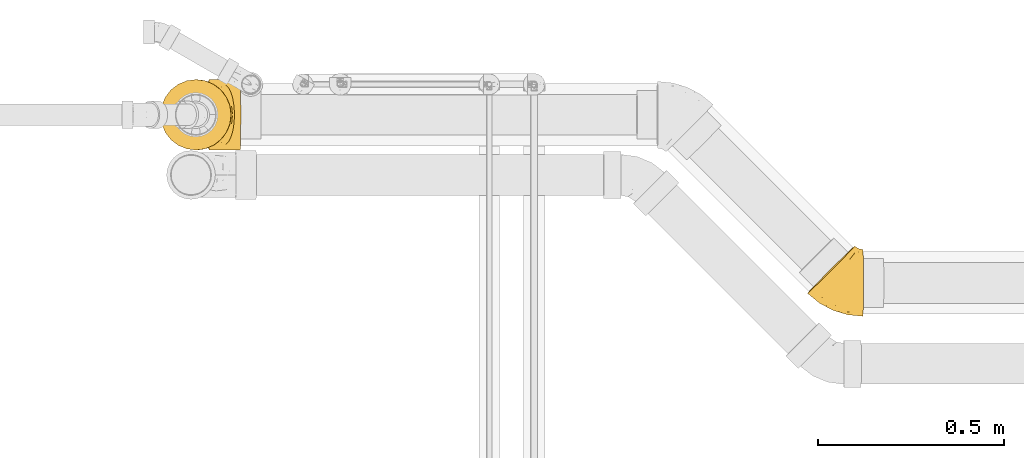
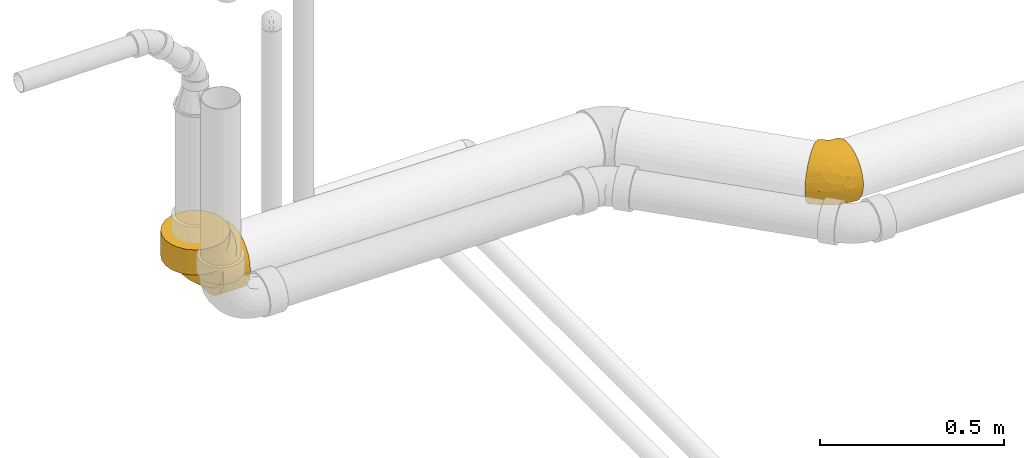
# One storey, part 11 of 78: 2 coverings.
"""IFC2X3 building model written with IfcOpenShell, lengths in millimetres."""

from ifc_helpers import new_model, entity, si_unit, converted_unit, derived_unit, direction, frame, origin_with_axes, place, context, subcontext, project, spatial, open_shell, surface_model, source, transform, mapped, element, save


model = new_model("IFC2X3")

# Units and contexts
model_context = context("Model", 3, precision=0.01, world=frame((0.0, 4.29681676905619e-09, 0.0)), true_north=direction((4.01073788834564e-13, 1.0)))
plan_context = context("Plan", 3, precision=0.01, world=frame((0.0, 4.29681676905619e-09, 0.0)), true_north=direction((4.01073788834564e-13, 1.0)))
body_context = subcontext(model_context, "Body", "Model", "MODEL_VIEW")
ifc_project = project(units=[converted_unit("PLANEANGLEUNIT", "DEGREE", entity("IfcPositiveLengthMeasure", 0.0174532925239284), si_unit("PLANEANGLEUNIT", "RADIAN"), dimensions=[0, 0, 0, 0, 0, 0, 0]), si_unit("AREAUNIT", "SQUARE_METRE"), si_unit("LENGTHUNIT", "METRE", prefix="MILLI"), si_unit("MASSUNIT", "GRAM", prefix="KILO"), si_unit("POWERUNIT", "WATT"), si_unit("PRESSUREUNIT", "PASCAL"), si_unit("FORCEUNIT", "NEWTON", prefix="KILO"), si_unit("ELECTRICVOLTAGEUNIT", "VOLT"), si_unit("ELECTRICCURRENTUNIT", "AMPERE"), si_unit("THERMODYNAMICTEMPERATUREUNIT", "DEGREE_CELSIUS"), si_unit("TIMEUNIT", "SECOND"), si_unit("VOLUMEUNIT", "CUBIC_METRE"), derived_unit("LINEARVELOCITYUNIT", [(si_unit("LENGTHUNIT", "METRE"), 1), (si_unit("TIMEUNIT", "SECOND"), -1)]), derived_unit("VOLUMETRICFLOWRATEUNIT", [(si_unit("VOLUMEUNIT", "CUBIC_METRE"), 1), (si_unit("TIMEUNIT", "SECOND"), -1)]), derived_unit("THERMALTRANSMITTANCEUNIT", [(si_unit("POWERUNIT", "WATT"), 1), (si_unit("THERMODYNAMICTEMPERATUREUNIT", "KELVIN"), -1), (si_unit("AREAUNIT", "SQUARE_METRE"), -1)]), derived_unit("SOUNDPRESSUREUNIT", [(si_unit("PRESSUREUNIT", "PASCAL"), 1)])], contexts=[model_context, plan_context])

# Site, building, storey
site_placement = place(None, frame((0.0, -4.29681676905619e-09, 0.0), z_axis=(0.0, 0.0, 1.0), x_axis=(1.0, 0.0, 0.0)))
site = spatial("IfcSite", under=ifc_project, at=site_placement, Name="ENGM", CompositionType="ELEMENT")
building_placement = place(site_placement, frame((0.0, 4.29681676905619e-09, 0.0), z_axis=(0.0, 0.0, 1.0), x_axis=(1.0, 0.0, 0.0)))
building = spatial("IfcBuilding", under=site, at=building_placement, Name="TH", CompositionType="ELEMENT")
storey_placement = place(building_placement, frame((0.0, 0.0, 205200.0), z_axis=(0.0, 0.0, 1.0), x_axis=(1.0, 0.0, 0.0)))
storey = spatial("IfcBuildingStorey", under=building, at=storey_placement, Name="Nivå D + 1,2 m", CompositionType="ELEMENT", Elevation=205200.0)

# Coverings
shared_shape_1 = source(origin_with_axes(), body_context, "Body", "SurfaceModel", [
    surface_model("IfcShellBasedSurfaceModel", [(-35.00211, 13.72892, -88.19182), (-35.00211, 0.0, -94.5), (-35.00211, 15.46763, -93.22555), (-35.00211, -2.75055, -84.8186), (-35.00211, -24.4584, -91.27999), (-35.00211, 30.43621, -89.46444), (-35.00211, -18.56422, -79.08992), (-35.00211, -33.24183, -70.89155), (-35.00211, -47.25, -81.8394), (-35.00211, -46.26178, -60.26457), (-35.00211, -66.82159, -66.82159), (-35.00211, -57.09081, -47.41718), (-35.00211, -81.8394, -47.25), (-35.00211, -65.23583, -32.72357), (-35.00211, -70.29701, -16.70539), (-35.00211, -91.27999, -24.4584), (-35.00211, -94.5, 0.0), (-35.00211, -72.0136, 0.0), (-35.00211, -2.75055, 84.8186), (-35.00211, 13.72892, 88.19182), (-35.00211, 0.0, 94.5), (-35.00211, -33.24183, 70.89155), (-35.00211, -18.56422, 79.08992), (-35.00211, -24.4584, 91.27999), (-35.00211, 15.46826, 93.22544), (-35.00211, 30.43621, 89.46444), (-35.00211, -47.25, 81.8394), (-35.00211, -70.29701, 16.70539), (-35.00211, -65.23583, 32.72357), (-35.00211, -91.27999, 24.4584), (-35.00211, -81.8394, 47.25), (-35.00211, -46.26178, 60.26457), (-35.00211, -66.82159, 66.82159), (-35.00211, -57.09081, 47.41718), (-119.00211, 24.4584, 91.27999), (-119.00211, -24.4584, 91.27999), (-119.00211, 0.0, 94.5), (-119.00211, 66.82159, 66.82159), (-119.00211, 47.25, 81.8394), (-119.00211, 81.8394, 47.25), (-119.00211, 91.27999, 24.4584), (-119.00211, -66.82159, 66.82159), (-119.00211, -47.25, 81.8394), (-119.00211, -81.8394, -47.25), (-119.00211, -91.27999, 24.4584), (-119.00211, -81.8394, 47.25), (-119.00211, -94.5, 0.0), (-119.00211, 24.4584, -91.27999), (-119.00211, 91.27999, -24.4584), (-119.00211, 81.8394, -47.25), (-119.00211, 47.25, -81.8394), (-119.00211, 66.82159, -66.82159), (-119.00211, -47.25, -81.8394), (-119.00211, -66.82159, -66.82159), (-119.00211, -91.27999, -24.4584), (-119.00211, 0.0, -94.5), (-119.00211, -24.4584, -91.27999), (-119.00211, 94.5, 0.0), (-119.00211, 92.89, 12.2292), (-101.6908, 93.78978, 8.16161), (-119.00211, 86.5597, 35.8542), (-96.97376, 82.12073, 46.75934), (-101.40886, 93.07955, 16.32322), (-93.03185, 73.1113, 59.87477), (-119.00211, 74.3305, 57.03579), (-100.5731, 90.98307, 24.20393), (-87.61351, 62.36465, 70.9993), (-99.73734, 88.88659, 32.08463), (-38.87582, 30.3315, 89.5), (-35.00211, 26.40083, 90.47842), (-36.9382, 30.35816, 89.49096), (-80.06803, 50.73321, 79.72697), (-69.36238, 39.88692, 85.66962), (-55.08606, 32.58204, 88.70547), (-101.97273, 94.5, 0.0), (-35.00211, 22.36544, 91.49239), (-69.36238, 39.88692, -85.66962), (-55.08606, 32.58204, -88.70547), (-80.06803, 50.73321, -79.72697), (-101.40886, 93.07955, -16.32322), (-119.00211, 92.89, -12.2292), (-93.03185, 73.1113, -59.87477), (-119.00211, 74.3305, -57.03579), (-96.97376, 82.12073, -46.75934), (-119.00211, 86.5597, -35.8542), (-99.73734, 88.88659, -32.08463), (-35.00211, 22.36543, -91.49236), (-35.00211, 26.40082, -90.47841), (-38.87582, 30.3315, -89.5), (-36.9382, 30.35816, -89.49096), (-100.5731, 90.98307, -24.20393), (-101.6908, 93.78978, -8.16161), (-87.61351, 62.36465, -70.9993), (67.39504, 33.88483, -66.82159), (82.41077, 33.63482, -47.25), (57.6656, 34.04683, -47.41718), (46.83807, 34.22711, -60.26457), (47.82616, 34.21066, -81.8394), (65.8095, 33.91123, -32.72357), (70.86997, 33.82698, -16.70539), (95.06961, 33.42405, 0.0), (72.58633, 33.7984, 0.0), (91.85004, 33.47766, -24.4584), (-14.88278, 35.25476, -93.22555), (0.58271, 34.99726, -94.5), (-13.14431, 35.22582, -88.19182), (-29.84928, 35.50396, -89.46444), (3.33287, 34.95147, -84.8186), (25.03772, 34.59009, -91.27999), (33.81993, 34.44386, -70.89155), (19.14436, 34.68821, -79.08992), (91.85004, 33.47766, 24.4584), (70.86997, 33.82698, 16.70539), (65.8095, 33.91123, 32.72357), (82.41077, 33.63482, 47.25), (67.39504, 33.88483, 66.82159), (57.6656, 34.04683, 47.41718), (46.83807, 34.22711, 60.26457), (47.82616, 34.21066, 81.8394), (33.81993, 34.44386, 70.89155), (3.33287, 34.95147, 84.8186), (19.14436, 34.68821, 79.08992), (25.03772, 34.59009, 91.27999), (0.58271, 34.99726, 94.5), (-13.14431, 35.22582, 88.19182), (-14.88278, 35.25476, 93.22555), (-29.84928, 35.50396, 89.46444), (1.98112, 118.98562, 94.5), (26.43613, 118.57845, 91.27999), (49.22457, 118.19902, 81.8394), (-22.47389, 119.3928, 91.27999), (68.79345, 117.87319, 66.82159), (83.80917, 117.62318, 47.25), (93.24846, 117.46601, 24.4584), (-79.84694, 120.34807, 47.25), (-45.26234, 119.77223, 81.8394), (-64.83121, 120.09805, 66.82159), (-92.50579, 120.55884, 0.0), (-89.28622, 120.50523, 24.4584), (96.46802, 117.41241, 0.0), (93.24846, 117.46601, -24.4584), (83.80917, 117.62318, -47.25), (26.43613, 118.57845, -91.27999), (68.79345, 117.87319, -66.82159), (49.22457, 118.19902, -81.8394), (-45.26234, 119.77223, -81.8394), (-79.84694, 120.34807, -47.25), (-64.83121, 120.09805, -66.82159), (-89.28622, 120.50523, -24.4584), (1.98112, 118.98562, -94.5), (-22.47389, 119.3928, -91.27999), (-38.72667, 70.01679, 85.66962), (-31.66047, 55.62084, 88.70547), (-49.39323, 80.90153, 79.72697), (-91.37842, 102.94437, 16.32322), (-90.89601, 120.53203, 12.2292), (-71.5524, 94.23609, 59.87477), (-72.33908, 120.22306, 57.03579), (-80.49495, 98.32745, 46.75934), (-84.56659, 120.42664, 35.8542), (-87.21387, 101.20329, 32.08463), (-21.77963, 35.3696, 91.49236), (-25.81446, 35.43678, 90.47841), (-29.6801, 39.37538, 89.5), (-29.73901, 37.43847, 89.49096), (-89.29615, 102.07383, 24.20393), (-92.78929, 103.53181, 0.0), (-92.08385, 103.23809, 8.16161), (-60.89744, 88.6396, 70.9993), (-90.89601, 120.53203, -12.2292), (-92.08385, 103.23809, -8.16161), (-84.56659, 120.42664, -35.8542), (-80.49495, 98.32745, -46.75934), (-91.37842, 102.94437, -16.32322), (-71.5524, 94.23609, -59.87477), (-72.33908, 120.22306, -57.03579), (-89.29615, 102.07383, -24.20393), (-60.89744, 88.6396, -70.9993), (-87.21387, 101.20329, -32.08463), (-29.6801, 39.37538, -89.5), (-25.81446, 35.43678, -90.47841), (-29.73901, 37.43847, -89.49096), (-49.39323, 80.90153, -79.72697), (-38.72667, 70.01679, -85.66962), (-31.66047, 55.62084, -88.70547), (-21.77963, 35.3696, -91.49236), (23.57872, -23.97459, 35.07803), (-4.6034, -36.29323, 51.07607), (-8.69833, -48.3687, 37.81165), (-1.22828, -53.46941, 0.0), (-5.51614, 5.60875, 79.63564), (12.00434, -12.20588, 60.63243), (0.21981, -48.89917, 22.76545), (43.86794, 1.07568, 37.51409), (48.88873, -1.03386, 22.76545), (-6.34948, -13.1534, 71.23808), (36.36483, 3.99855, 51.07607), (27.18382, -27.64021, 18.90398), (28.59969, -29.07984, 0.0), (-34.15737, 34.73083, 89.5), (-36.83041, 32.23858, 89.5), (-31.62097, 37.362, 89.5), (53.48245, 0.33797, 0.0), (-52.95645, 53.84552, 85.39013), (-68.82074, 69.97614, 74.60877), (-83.39621, 84.79631, 55.49085), (-91.96504, 89.07133, 41.75735), (-96.91443, 98.5415, 0.0), (-94.07341, 95.65278, 26.62394), (-87.52797, 93.43513, -41.75735), (-68.82074, 69.97614, -74.60877), (-83.39621, 84.79631, -55.49085), (-94.07341, 95.65278, -26.62394), (-52.95645, 53.84552, -85.39013), (-34.15737, 34.73083, -89.5), (-5.51614, 5.60875, -79.63564), (13.25728, 6.12962, -71.23808), (48.88873, -1.03386, -22.76545), (-36.83041, 32.23858, -89.5), (0.21981, -48.89917, -22.76545), (-31.62097, 37.362, -89.5), (48.5068, 7.89188, -37.81165), (36.36483, 3.99855, -51.07607), (-1.80585, -43.84397, -37.51409), (-4.6034, -36.29323, -51.07607), (23.57872, -23.97459, -35.07803), (12.00434, -12.20588, -60.63243), (27.18382, -27.64021, -18.90398)], [open_shell([[[0, 1, 2]], [[3, 4, 1]], [[2, 5, 0]], [[0, 3, 1]], [[6, 7, 4]], [[3, 6, 4]], [[4, 7, 8]], [[8, 9, 10]], [[9, 8, 7]], [[10, 11, 12]], [[11, 10, 9]], [[13, 14, 15]], [[13, 15, 12]], [[16, 15, 14]], [[16, 14, 17]], [[13, 12, 11]], [[18, 19, 20]], [[21, 22, 23]], [[18, 23, 22]], [[20, 19, 24]], [[23, 18, 20]], [[24, 19, 25]], [[21, 23, 26]], [[27, 28, 29]], [[29, 16, 27]], [[28, 30, 29]], [[27, 16, 17]], [[31, 26, 32]], [[26, 31, 21]], [[30, 33, 32]], [[33, 30, 28]], [[32, 33, 31]], [[34, 35, 36]], [[37, 34, 38]], [[37, 39, 40]], [[34, 37, 35]], [[40, 35, 37]], [[35, 41, 42]], [[41, 35, 43]], [[41, 44, 45]], [[44, 41, 46]], [[41, 43, 46]], [[47, 35, 40]], [[40, 48, 47]], [[47, 48, 49]], [[50, 47, 49]], [[50, 49, 51]], [[35, 47, 43]], [[43, 52, 53]], [[54, 46, 43]], [[52, 55, 56]], [[52, 43, 47]], [[55, 52, 47]], [[40, 57, 48]], [[57, 58, 59]], [[60, 39, 61]], [[58, 40, 62]], [[63, 64, 37]], [[65, 62, 40]], [[58, 62, 59]], [[61, 39, 64]], [[66, 63, 37]], [[60, 61, 67]], [[37, 38, 66]], [[68, 69, 70]], [[71, 38, 72]], [[38, 71, 66]], [[73, 72, 34]], [[34, 72, 38]], [[24, 34, 36]], [[69, 68, 73]], [[67, 40, 60]], [[57, 59, 74]], [[25, 70, 69]], [[61, 64, 63]], [[24, 75, 73]], [[73, 34, 24]], [[69, 73, 75]], [[36, 20, 24]], [[40, 67, 65]], [[23, 35, 42]], [[26, 42, 41]], [[20, 36, 23]], [[23, 36, 35]], [[42, 26, 23]], [[41, 32, 26]], [[30, 45, 44]], [[29, 44, 46]], [[32, 45, 30]], [[30, 44, 29]], [[46, 16, 29]], [[45, 32, 41]], [[15, 54, 43]], [[12, 43, 53]], [[46, 54, 16]], [[16, 54, 15]], [[43, 12, 15]], [[53, 10, 12]], [[8, 52, 56]], [[4, 56, 55]], [[10, 52, 8]], [[8, 56, 4]], [[55, 1, 4]], [[52, 10, 53]], [[2, 55, 47]], [[47, 76, 77]], [[76, 47, 50]], [[76, 50, 78]], [[79, 48, 80]], [[2, 47, 77]], [[1, 55, 2]], [[81, 51, 82]], [[83, 84, 85]], [[2, 77, 86]], [[87, 88, 89]], [[87, 77, 88]], [[48, 79, 90]], [[82, 49, 83]], [[57, 74, 91]], [[84, 48, 85]], [[91, 79, 80]], [[89, 5, 87]], [[78, 50, 92]], [[81, 92, 51]], [[57, 91, 80]], [[83, 49, 84]], [[90, 85, 48]], [[82, 83, 81]], [[86, 77, 87]], [[92, 50, 51]], [[93, 94, 95]], [[96, 93, 95]], [[93, 96, 97]], [[94, 98, 95]], [[99, 100, 101]], [[100, 99, 102]], [[99, 98, 102]], [[102, 98, 94]], [[103, 104, 105]], [[105, 106, 103]], [[107, 104, 108]], [[109, 108, 97]], [[107, 105, 104]], [[110, 107, 108]], [[109, 110, 108]], [[97, 96, 109]], [[100, 111, 112]], [[113, 112, 111]], [[111, 114, 113]], [[100, 112, 101]], [[114, 115, 116]], [[117, 115, 118]], [[115, 117, 116]], [[114, 116, 113]], [[117, 118, 119]], [[120, 121, 122]], [[119, 122, 121]], [[123, 124, 120]], [[124, 125, 126]], [[125, 124, 123]], [[123, 120, 122]], [[118, 122, 119]], [[127, 128, 129]], [[130, 127, 129]], [[131, 132, 133]], [[130, 129, 131]], [[134, 131, 133]], [[135, 134, 136]], [[134, 135, 130]], [[134, 137, 138]], [[134, 130, 131]], [[133, 137, 134]], [[133, 139, 137]], [[139, 140, 141]], [[141, 142, 137]], [[143, 144, 142]], [[143, 142, 141]], [[137, 142, 145]], [[146, 145, 147]], [[148, 137, 146]], [[145, 149, 150]], [[146, 137, 145]], [[149, 145, 142]], [[139, 141, 137]], [[111, 133, 132]], [[114, 132, 131]], [[139, 133, 100]], [[100, 133, 111]], [[132, 114, 111]], [[131, 115, 114]], [[118, 129, 128]], [[122, 128, 127]], [[115, 129, 118]], [[118, 128, 122]], [[127, 123, 122]], [[129, 115, 131]], [[125, 127, 130]], [[130, 151, 152]], [[151, 130, 135]], [[151, 135, 153]], [[154, 138, 155]], [[125, 130, 152]], [[123, 127, 125]], [[156, 136, 157]], [[158, 159, 160]], [[125, 152, 161]], [[162, 163, 164]], [[162, 152, 163]], [[138, 154, 165]], [[157, 134, 158]], [[137, 166, 167]], [[159, 138, 160]], [[167, 154, 155]], [[164, 126, 162]], [[153, 135, 168]], [[156, 168, 136]], [[137, 167, 155]], [[158, 134, 159]], [[165, 160, 138]], [[157, 158, 156]], [[161, 152, 162]], [[168, 135, 136]], [[137, 169, 170]], [[171, 146, 172]], [[169, 148, 173]], [[174, 175, 147]], [[176, 173, 148]], [[169, 173, 170]], [[172, 146, 175]], [[177, 174, 147]], [[171, 172, 178]], [[147, 145, 177]], [[179, 180, 181]], [[182, 145, 183]], [[145, 182, 177]], [[184, 183, 150]], [[150, 183, 145]], [[103, 150, 149]], [[180, 179, 184]], [[178, 148, 171]], [[137, 170, 166]], [[106, 181, 180]], [[172, 175, 174]], [[103, 185, 184]], [[184, 150, 103]], [[180, 184, 185]], [[149, 104, 103]], [[148, 178, 176]], [[108, 142, 144]], [[97, 144, 143]], [[149, 142, 104]], [[104, 142, 108]], [[144, 97, 108]], [[143, 93, 97]], [[94, 141, 140]], [[102, 140, 139]], [[93, 141, 94]], [[94, 140, 102]], [[139, 100, 102]], [[141, 93, 143]], [[186, 187, 188]], [[189, 27, 17]], [[33, 28, 188]], [[121, 120, 190]], [[191, 31, 187]], [[188, 28, 192]], [[193, 186, 194]], [[31, 191, 195]], [[21, 31, 195]], [[187, 196, 191]], [[196, 187, 186]], [[18, 124, 19]], [[18, 22, 190]], [[31, 33, 187]], [[197, 189, 198]], [[25, 199, 200]], [[164, 163, 201]], [[186, 192, 197]], [[200, 68, 70]], [[199, 25, 126]], [[27, 192, 28]], [[19, 126, 25]], [[202, 197, 198]], [[186, 197, 194]], [[189, 197, 192]], [[116, 117, 196]], [[27, 189, 192]], [[112, 113, 194]], [[190, 119, 121]], [[116, 196, 193]], [[116, 193, 113]], [[191, 196, 117]], [[202, 101, 112]], [[22, 21, 195]], [[194, 113, 193]], [[201, 199, 126]], [[25, 200, 70]], [[196, 186, 193]], [[201, 126, 164]], [[186, 188, 192]], [[18, 190, 120]], [[117, 119, 191]], [[18, 120, 124]], [[202, 112, 194]], [[126, 19, 124]], [[119, 190, 195]], [[22, 195, 190]], [[33, 188, 187]], [[194, 197, 202]], [[119, 195, 191]], [[203, 72, 73]], [[73, 68, 199]], [[71, 203, 204]], [[199, 203, 73]], [[203, 71, 72]], [[204, 63, 66]], [[63, 205, 61]], [[67, 61, 206]], [[158, 206, 205]], [[153, 168, 204]], [[205, 206, 61]], [[207, 74, 62]], [[204, 205, 63]], [[67, 208, 62]], [[67, 206, 208]], [[203, 199, 152]], [[203, 152, 151]], [[66, 71, 204]], [[153, 204, 203]], [[205, 204, 156]], [[207, 154, 166]], [[62, 208, 207]], [[204, 168, 156]], [[154, 208, 160]], [[207, 208, 154]], [[158, 160, 206]], [[153, 203, 151]], [[158, 205, 156]], [[160, 208, 206]], [[152, 199, 163]], [[83, 85, 209]], [[210, 211, 174]], [[79, 74, 207]], [[182, 210, 177]], [[207, 212, 79]], [[78, 213, 76]], [[85, 212, 209]], [[213, 78, 210]], [[92, 210, 78]], [[182, 213, 210]], [[213, 77, 76]], [[88, 77, 214]], [[178, 209, 212]], [[81, 211, 210]], [[83, 209, 211]], [[207, 173, 212]], [[85, 79, 212]], [[210, 92, 81]], [[211, 81, 83]], [[172, 174, 211]], [[178, 172, 209]], [[209, 172, 211]], [[174, 177, 210]], [[214, 184, 179]], [[77, 213, 214]], [[173, 178, 212]], [[214, 213, 184]], [[184, 213, 183]], [[182, 183, 213]], [[173, 207, 166]], [[7, 215, 216]], [[107, 110, 215]], [[99, 202, 217]], [[3, 107, 215]], [[214, 5, 218]], [[189, 14, 219]], [[106, 220, 181]], [[89, 218, 5]], [[5, 106, 0]], [[99, 217, 98]], [[95, 221, 222]], [[3, 0, 105]], [[189, 17, 14]], [[223, 11, 224]], [[224, 11, 9]], [[11, 223, 13]], [[14, 13, 219]], [[224, 225, 223]], [[215, 7, 6]], [[110, 109, 216]], [[106, 5, 214]], [[219, 13, 223]], [[220, 106, 214]], [[181, 220, 179]], [[226, 224, 9]], [[89, 88, 218]], [[215, 6, 3]], [[96, 95, 222]], [[109, 96, 216]], [[7, 216, 226]], [[225, 217, 227]], [[107, 3, 105]], [[110, 216, 215]], [[9, 7, 226]], [[227, 219, 225]], [[222, 226, 96]], [[217, 221, 98]], [[96, 226, 216]], [[225, 222, 221]], [[223, 225, 219]], [[101, 202, 99]], [[224, 222, 225]], [[222, 224, 226]], [[189, 219, 227]], [[202, 227, 217]], [[227, 202, 198]], [[189, 227, 198]], [[105, 0, 106]], [[225, 221, 217]], [[95, 98, 221]]])]),
])
covering_1_placement = place(storey_placement, frame((899103.43178, 483269.44467, 4435.96666999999), z_axis=(0.0, -0.9999999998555, 1.69999999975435e-05), x_axis=(-2.6999999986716e-05, -1.6999999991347e-05, -0.999999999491)))
element("IfcCovering", 1, at=covering_1_placement, inside=storey, Name="BI17T - Cellegummi 13 mm SPV fett", PredefinedType="INSULATION", context=body_context, shape_type="MappedRepresentation", body=[
    mapped(shared_shape_1, transform((0.0, 0.0, 0.0), scale=1.0)),
])
shared_shape_2 = source(origin_with_axes(), body_context, "Body", "SurfaceModel", [
    surface_model("IfcShellBasedSurfaceModel", [(3.79385, 67.08347, -77.50559), (-27.84224, 98.72442, 0.0), (-24.02446, 94.90606, 30.61646), (-26.88041, 97.76245, 15.54509), (-19.36157, 90.24245, 44.75638), (-13.03368, 83.91358, 57.53551), (13.79973, 57.07605, 84.10466), (24.45414, 46.42, 88.14125), (3.80274, 67.07458, 77.51286), (-5.23323, 76.11193, 68.56595), (-5.24167, 76.12038, -68.55592), (-19.3667, 90.24758, -44.7438), (-24.02746, 94.90905, -30.60483), (-13.04077, 83.92068, -57.52357), (-26.88154, 97.76357, -15.53607), (13.79151, 57.08427, -84.10043), (35.43895, 35.4335, -89.5), (24.44776, 46.42639, -88.13966), (67.08405, 3.78353, 77.50559), (35.43895, 35.4335, 89.5), (46.43014, 24.44062, 88.13966), (57.08639, 13.78273, 84.10043), (46.42377, 24.447, -88.14125), (83.91867, -13.05367, 57.52357), (94.90535, -24.04205, 30.60483), (90.2446, -19.38058, 44.7438), (76.11958, -5.25338, 68.55592), (98.72015, -27.85742, 0.0), (97.75944, -26.89657, 15.53607), (83.91158, -13.04658, -57.53551), (76.11113, -5.24493, -68.56595), (67.07516, 3.79243, -77.51286), (57.07817, 13.79096, -84.10466), (97.75831, -26.89544, -15.54509), (94.90236, -24.03906, -30.61646), (90.23947, -19.37544, -44.75638), (-50.11439, 86.45036, -23.1643), (-50.11439, 86.45036, 23.1643), (-50.11439, 89.5, 0.0), (-50.11439, 63.28606, -63.28606), (-50.11439, 77.50928, -44.75), (-50.11439, 0.0, -89.5), (-50.11439, 44.75, -77.50928), (-50.11439, 23.1643, 86.45036), (-50.11439, -89.5, 0.0), (-50.11439, 63.28606, 63.28606), (-50.11439, 77.50928, 44.75), (-50.11439, 44.75, 77.50928), (-50.11439, 0.0, 89.5), (-50.11439, 23.1643, -86.45036), (-50.11439, -23.1643, -86.45036), (-50.11439, -63.28606, -63.28606), (-50.11439, -44.75, -77.50928), (-50.11439, -77.50928, -44.75), (-50.11439, -86.45036, -23.1643), (-50.11439, -63.28606, 63.28606), (-50.11439, -44.75, 77.50928), (-50.11439, -23.1643, 86.45036), (-50.11439, -77.50928, 44.75), (-50.11439, -86.45036, 23.1643), (12.40211, -29.93988, 78.83318), (40.62434, -11.95856, 80.07878), (4.29726, -10.37563, 86.95349), (-9.05185, -85.45609, 0.0), (9.44156, -77.13189, 25.16522), (30.43299, -73.47974, 0.0), (48.52269, -62.88441, 18.01101), (25.01929, -60.40464, 48.2997), (1.44449, -53.34501, 65.66977), (-14.93234, -69.16931, 52.62149), (-18.80028, 4.12217, 89.5), (59.66448, -49.48772, 36.37576), (10.38024, 16.20783, 89.5), (-22.32196, -33.86703, 81.78983), (47.67374, -37.25903, 61.48904), (35.78328, -30.42632, 72.05132), (66.82305, -54.0311, 0.0), (-33.06679, 95.23393, 0.0), (-34.40597, 91.4511, 18.65036), (-35.67811, 54.42153, 72.21184), (-32.46175, 36.06522, 82.68721), (-14.37213, 45.88875, 81.11741), (-32.04595, 16.85574, 88.18254), (-32.97554, 84.98147, 37.8304), (-40.57054, 83.8646, 34.32105), (-42.21244, 88.72918, 17.48307), (-27.01703, 78.65732, 52.10726), (-37.84408, 75.99731, 49.81624), (-27.76987, 67.78104, 63.29157), (-17.4648, 73.40231, 63.29157), (-14.12533, 25.64379, 87.44293), (3.56704, 38.92706, 86.51272), (-38.06098, 91.89733, 0.0), (-44.08769, 90.69867, 0.0), (-41.31389, 71.78578, -54.48415), (-33.68697, 33.98585, -83.4106), (-43.95183, 90.72568, 0.0), (-4.73606, 53.69278, -80.15146), (-31.86873, 76.94738, -51.32899), (-41.19068, 83.74096, -34.25017), (-33.2049, 90.87293, -23.15857), (-40.43635, 89.34484, -16.85572), (-16.46165, 24.84602, -87.43229), (-18.80028, 4.12217, -89.5), (-19.46513, 72.10332, -63.28054), (-31.71506, 60.26053, -68.55644), (-18.28901, 44.16037, -81.11172), (1.84356, 38.1068, -86.44911), (-32.95161, 95.31088, 0.0), (-24.15754, 82.49903, -49.49855), (-18.45476, 59.09178, -73.22218), (10.38024, 16.20783, -89.5), (4.29478, -10.36964, -86.95506), (1.43687, -53.33691, -65.67897), (35.7754, -30.41773, -72.0597), (47.66593, -37.25165, -61.50003), (40.61582, -11.95011, -80.08466), (12.39446, -29.93071, -78.8393), (-14.94339, -69.16395, -52.6315), (9.44081, -77.1301, -25.1718), (25.01358, -60.39867, -48.31171), (-22.32956, -33.86781, -81.79008), (59.72053, -42.80038, -46.91826), (62.91522, -53.29515, -22.06836)], [open_shell([[[0, 1, 2]], [[1, 3, 2]], [[2, 4, 5]], [[6, 7, 8]], [[9, 8, 7]], [[7, 2, 9]], [[2, 5, 9]], [[0, 2, 7]], [[10, 11, 12]], [[10, 13, 11]], [[14, 1, 12]], [[10, 12, 0]], [[15, 16, 17]], [[15, 0, 7]], [[1, 0, 12]], [[15, 7, 16]], [[7, 18, 16]], [[19, 20, 21]], [[21, 18, 19]], [[16, 18, 22]], [[18, 23, 22]], [[24, 22, 25]], [[25, 22, 23]], [[18, 26, 23]], [[27, 24, 28]], [[29, 30, 31]], [[29, 31, 32]], [[27, 32, 22]], [[27, 33, 34]], [[27, 35, 29]], [[35, 27, 34]], [[27, 29, 32]], [[22, 24, 27]], [[18, 7, 19]], [[36, 37, 38]], [[39, 36, 40]], [[41, 39, 42]], [[43, 36, 44]], [[36, 39, 44]], [[37, 45, 46]], [[45, 37, 47]], [[37, 43, 47]], [[37, 36, 43]], [[43, 44, 48]], [[49, 41, 42]], [[44, 39, 50]], [[51, 50, 52]], [[44, 50, 53]], [[53, 50, 51]], [[44, 53, 54]], [[48, 55, 56]], [[56, 57, 48]], [[58, 44, 59]], [[44, 58, 55]], [[55, 48, 44]], [[39, 41, 50]], [[60, 61, 62]], [[59, 44, 63]], [[64, 63, 65]], [[66, 64, 65]], [[21, 20, 62]], [[67, 68, 69]], [[57, 62, 70]], [[71, 67, 64]], [[72, 70, 62]], [[73, 57, 56]], [[74, 75, 68]], [[75, 18, 61]], [[56, 55, 68]], [[70, 48, 57]], [[73, 62, 57]], [[58, 59, 64]], [[67, 74, 68]], [[64, 67, 69]], [[66, 65, 76]], [[66, 28, 24]], [[74, 71, 23]], [[23, 71, 25]], [[24, 71, 66]], [[28, 76, 27]], [[55, 69, 68]], [[26, 75, 74]], [[23, 26, 74]], [[68, 75, 60]], [[62, 20, 72]], [[19, 72, 20]], [[69, 55, 58]], [[68, 60, 73]], [[74, 67, 71]], [[21, 61, 18]], [[28, 66, 76]], [[75, 61, 60]], [[18, 75, 26]], [[62, 61, 21]], [[64, 66, 71]], [[71, 24, 25]], [[64, 69, 58]], [[59, 63, 64]], [[68, 73, 56]], [[62, 73, 60]], [[77, 78, 3]], [[79, 47, 80]], [[81, 6, 8]], [[82, 48, 70]], [[78, 83, 2]], [[80, 43, 82]], [[37, 46, 84]], [[43, 80, 47]], [[37, 85, 38]], [[81, 79, 80]], [[86, 87, 88]], [[5, 4, 86]], [[45, 79, 87]], [[87, 83, 84]], [[86, 89, 5]], [[81, 89, 88]], [[81, 90, 91]], [[79, 81, 88]], [[83, 86, 4]], [[81, 91, 6]], [[2, 3, 78]], [[79, 45, 47]], [[84, 78, 85]], [[5, 89, 9]], [[7, 72, 19]], [[8, 9, 89]], [[88, 89, 86]], [[81, 80, 90]], [[77, 92, 78]], [[85, 92, 93]], [[83, 78, 84]], [[85, 78, 92]], [[3, 1, 77]], [[4, 2, 83]], [[45, 87, 46]], [[89, 81, 8]], [[90, 82, 70]], [[87, 86, 83]], [[79, 88, 87]], [[70, 72, 90]], [[91, 72, 7]], [[72, 91, 90]], [[6, 91, 7]], [[37, 84, 85]], [[46, 87, 84]], [[80, 82, 90]], [[48, 82, 43]], [[38, 85, 93]], [[39, 40, 94]], [[49, 42, 95]], [[36, 38, 96]], [[97, 10, 0]], [[98, 94, 99]], [[100, 101, 92]], [[49, 102, 103]], [[98, 104, 105]], [[41, 49, 103]], [[96, 101, 36]], [[102, 106, 107]], [[102, 95, 106]], [[36, 99, 40]], [[49, 95, 102]], [[101, 100, 99]], [[42, 39, 105]], [[108, 1, 14]], [[105, 95, 42]], [[108, 14, 100]], [[13, 10, 104]], [[104, 109, 13]], [[107, 15, 17]], [[109, 12, 11]], [[109, 100, 12]], [[100, 98, 99]], [[97, 110, 10]], [[97, 15, 107]], [[94, 105, 39]], [[111, 17, 16]], [[102, 111, 103]], [[17, 111, 107]], [[106, 97, 107]], [[105, 106, 95]], [[98, 109, 104]], [[96, 92, 101]], [[14, 12, 100]], [[111, 102, 107]], [[10, 110, 104]], [[36, 101, 99]], [[99, 94, 40]], [[105, 94, 98]], [[100, 109, 98]], [[13, 109, 11]], [[97, 106, 110]], [[15, 97, 0]], [[106, 105, 110]], [[105, 104, 110]], [[100, 92, 108]], [[50, 103, 112]], [[113, 114, 115]], [[115, 114, 30]], [[22, 112, 111]], [[111, 112, 103]], [[41, 103, 50]], [[114, 116, 31]], [[114, 113, 117]], [[63, 44, 54]], [[51, 118, 53]], [[119, 118, 120]], [[118, 119, 53]], [[53, 119, 54]], [[113, 52, 121]], [[118, 51, 113]], [[119, 65, 63]], [[122, 35, 34]], [[50, 121, 52]], [[112, 22, 32]], [[29, 122, 115]], [[112, 32, 116]], [[31, 30, 114]], [[115, 30, 29]], [[118, 113, 120]], [[123, 119, 120]], [[31, 116, 32]], [[52, 113, 51]], [[35, 122, 29]], [[123, 34, 33]], [[115, 122, 120]], [[114, 117, 116]], [[65, 119, 123]], [[33, 27, 76]], [[123, 120, 122]], [[65, 123, 76]], [[76, 123, 33]], [[113, 115, 120]], [[34, 123, 122]], [[54, 119, 63]], [[22, 111, 16]], [[112, 116, 117]], [[112, 117, 121]], [[112, 121, 50]], [[113, 121, 117]]])]),
])
covering_2_placement = place(storey_placement, frame((900842.38164, 482818.6253, 4403.99478000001), z_axis=(0.0124499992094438, -0.0140389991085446, 0.999823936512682), x_axis=(0.706982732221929, -0.706982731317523, -0.0187305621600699)))
element("IfcCovering", 2, at=covering_2_placement, inside=storey, Name="BI17T - Cellegummi 13 mm SPV fett", PredefinedType="INSULATION", context=body_context, shape_type="MappedRepresentation", body=[
    mapped(shared_shape_2, transform((0.0, 0.0, 0.0), scale=1.0)),
])

save(model, "model.ifc")
